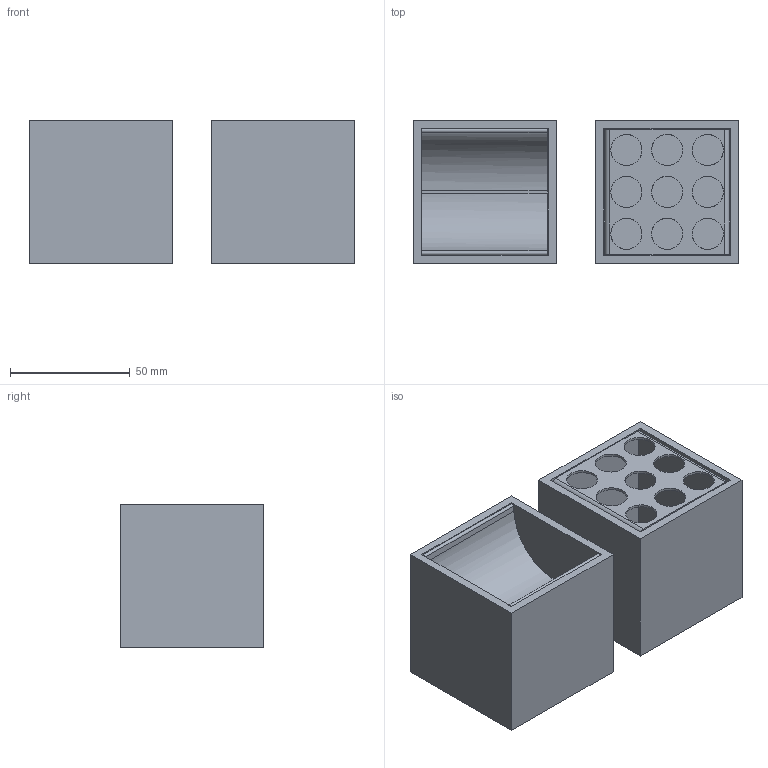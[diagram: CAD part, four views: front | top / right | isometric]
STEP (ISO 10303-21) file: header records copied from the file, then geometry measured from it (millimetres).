
FILE_DESCRIPTION(/* description */ (''),/* implementation_level */ '2;1');
FILE_NAME(/* name */ 'MAIORCA',/* time_stamp */ '2017-05-31T10:43:08+02:00',/* author */ (''),/* organization */ (''),/* preprocessor_version */ 'ST-DEVELOPER v10',/* originating_system */ '',/* authorisation */ '');
FILE_SCHEMA (('CONFIG_CONTROL_DESIGN'));
Length unit declared in the file: millimetre
Products named in the file (2): 1; 2
Assembly tree (2 placements, depth 2):
  1
    2  x2
Bounding box: 136.12 x 60 x 60.13 mm (x, y, z)
Volume: 129592.1 mm3; surface area: 102844.5 mm2
Topology: 4 solids, 4 shells, 96 faces, 226 edges, 140 vertices
Faces by surface type: plane 62, bspline 34
Entity records: 2527 total; most frequent: CARTESIAN_POINT 1049, ORIENTED_EDGE 404, EDGE_CURVE 202, VERTEX_POINT 124, EDGE_LOOP 104, B_SPLINE_CURVE_WITH_KNOTS 102, ADVANCED_FACE 85, FACE_OUTER_BOUND 85
